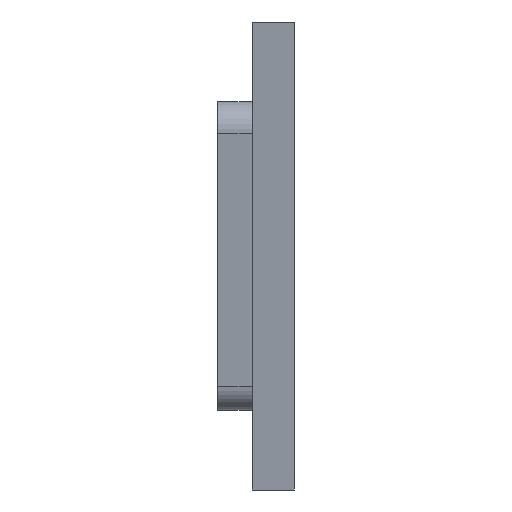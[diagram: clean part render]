
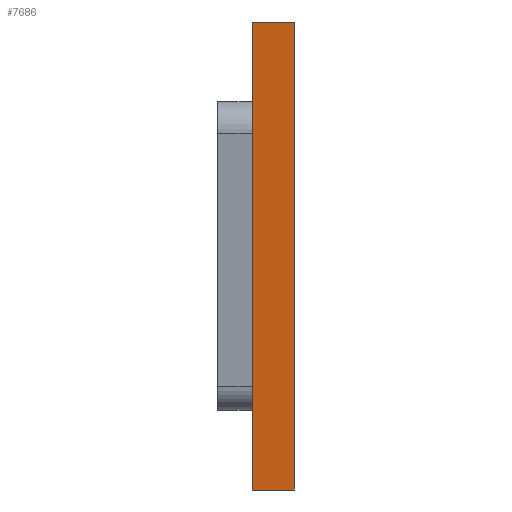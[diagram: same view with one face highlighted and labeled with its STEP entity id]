
A CAD part, left-side view. The second image highlights one B-rep face of the part: STEP entity #7686.
In plain terms, the highlighted planar face has unit normal (-0.99, 0, -0.139).
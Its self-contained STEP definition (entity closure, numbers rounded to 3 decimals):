
#281 = CARTESIAN_POINT ( 'NONE',  ( -27.439, -4.5, 25. ) ) ;
#475 = CARTESIAN_POINT ( 'NONE',  ( -20.411, 0., -25. ) ) ;
#1195 = VERTEX_POINT ( 'NONE', #2322 ) ;
#2192 = CARTESIAN_POINT ( 'NONE',  ( -27.439, 0., 25. ) ) ;
#2322 = CARTESIAN_POINT ( 'NONE',  ( -27.439, 0., 25. ) ) ;
#2451 = FACE_OUTER_BOUND ( 'NONE', #6384, .T. ) ;
#2656 = DIRECTION ( 'NONE',  ( 0., 1., 0. ) ) ;
#3262 = CARTESIAN_POINT ( 'NONE',  ( -27.439, -4.5, 25. ) ) ;
#3316 = VERTEX_POINT ( 'NONE', #475 ) ;
#4132 = LINE ( 'NONE', #13782, #9154 ) ;
#4340 = ORIENTED_EDGE ( 'NONE', *, *, #11916, .T. ) ;
#4404 = ORIENTED_EDGE ( 'NONE', *, *, #6705, .T. ) ;
#4610 = LINE ( 'NONE', #2192, #5767 ) ;
#4669 = VERTEX_POINT ( 'NONE', #11762 ) ;
#4858 = DIRECTION ( 'NONE',  ( -0.99, 0., -0.139 ) ) ;
#5390 = VECTOR ( 'NONE', #6674, 1000. ) ;
#5676 = VECTOR ( 'NONE', #2656, 1000. ) ;
#5767 = VECTOR ( 'NONE', #9461, 1000. ) ;
#6384 = EDGE_LOOP ( 'NONE', ( #6562, #10619, #4404, #4340 ) ) ;
#6562 = ORIENTED_EDGE ( 'NONE', *, *, #13436, .F. ) ;
#6674 = DIRECTION ( 'NONE',  ( 0., 1., 0. ) ) ;
#6705 = EDGE_CURVE ( 'NONE', #4669, #9841, #4132, .T. ) ;
#7686 = ADVANCED_FACE ( 'NONE', ( #2451 ), #14335, .T. ) ;
#7798 = DIRECTION ( 'NONE',  ( -0.139, 0., 0.99 ) ) ;
#9068 = LINE ( 'NONE', #11629, #5390 ) ;
#9154 = VECTOR ( 'NONE', #7798, 1000. ) ;
#9461 = DIRECTION ( 'NONE',  ( -0.139, 0., 0.99 ) ) ;
#9841 = VERTEX_POINT ( 'NONE', #3262 ) ;
#10453 = EDGE_CURVE ( 'NONE', #4669, #3316, #9068, .T. ) ;
#10619 = ORIENTED_EDGE ( 'NONE', *, *, #10453, .F. ) ;
#10670 = CARTESIAN_POINT ( 'NONE',  ( -27.439, -4.5, 25. ) ) ;
#10687 = AXIS2_PLACEMENT_3D ( 'NONE', #10670, #4858, #15526 ) ;
#11629 = CARTESIAN_POINT ( 'NONE',  ( -20.411, -4.5, -25. ) ) ;
#11762 = CARTESIAN_POINT ( 'NONE',  ( -20.411, -4.5, -25. ) ) ;
#11916 = EDGE_CURVE ( 'NONE', #9841, #1195, #13587, .T. ) ;
#13436 = EDGE_CURVE ( 'NONE', #3316, #1195, #4610, .T. ) ;
#13587 = LINE ( 'NONE', #281, #5676 ) ;
#13782 = CARTESIAN_POINT ( 'NONE',  ( -27.439, -4.5, 25. ) ) ;
#14335 = PLANE ( 'NONE',  #10687 ) ;
#15526 = DIRECTION ( 'NONE',  ( -0.139, 0., 0.99 ) ) ;
